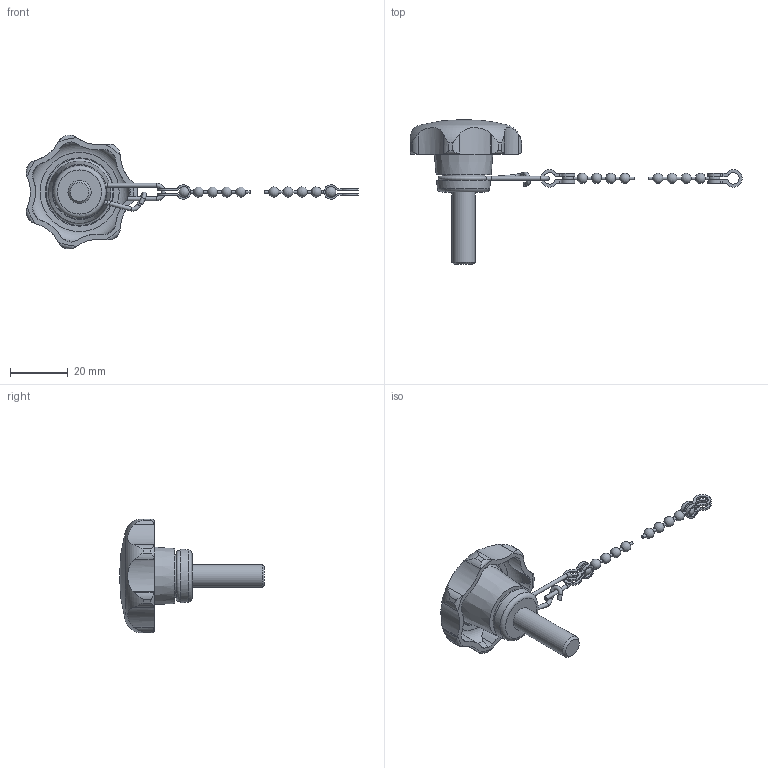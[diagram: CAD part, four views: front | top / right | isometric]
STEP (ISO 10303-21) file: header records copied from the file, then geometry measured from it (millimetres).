
FILE_DESCRIPTION( ( 'STEP AP203' ), '1' );
FILE_NAME( 'C:/Temp/Ganter_Step_05_03_2020/data/2_2/gn_6336_13/gn_6336_13_2/Star knob GN 6336.13-40-M8-25-K.stp', '2020-03-05T12:12:19', ( 'License CC BY-ND 4.0' ), ( 'CADENAS' ), ' ', 'PARTsolutions', ' ' );
FILE_SCHEMA( ( 'CONFIG_CONTROL_DESIGN' ) );
Length unit declared in the file: millimetre
Products named in the file (3): Star knob GN 6336.13-40-M8-25-K; _Star knob GN 6336.13-40-M8-25-K 6; _Star knob GN 111.5-200-14 k2
Assembly tree (2 placements, depth 2):
  Star knob GN 6336.13-40-M8-25-K
    _Star knob GN 6336.13-40-M8-25-K 6
    _Star knob GN 111.5-200-14 k2
Bounding box: 114.5 x 50 x 39.31 mm (x, y, z)
Volume: 12809.4 mm3; surface area: 7006.5 mm2
Topology: 2 solids, 2 shells, 184 faces, 527 edges, 341 vertices
Faces by surface type: cylinder 115, plane 29, torus 18, sphere 11, cone 11
Full cylindrical faces by diameter (mm): 0.9 x10, 1.4 x5, 8 x1, 14.7 x1
Entity records: 6592 total; most frequent: CARTESIAN_POINT 1993, ORIENTED_EDGE 928, DIRECTION 924, EDGE_CURVE 464, AXIS2_PLACEMENT_3D 388, VERTEX_POINT 329, EDGE_LOOP 234, FACE_OUTER_BOUND 219
